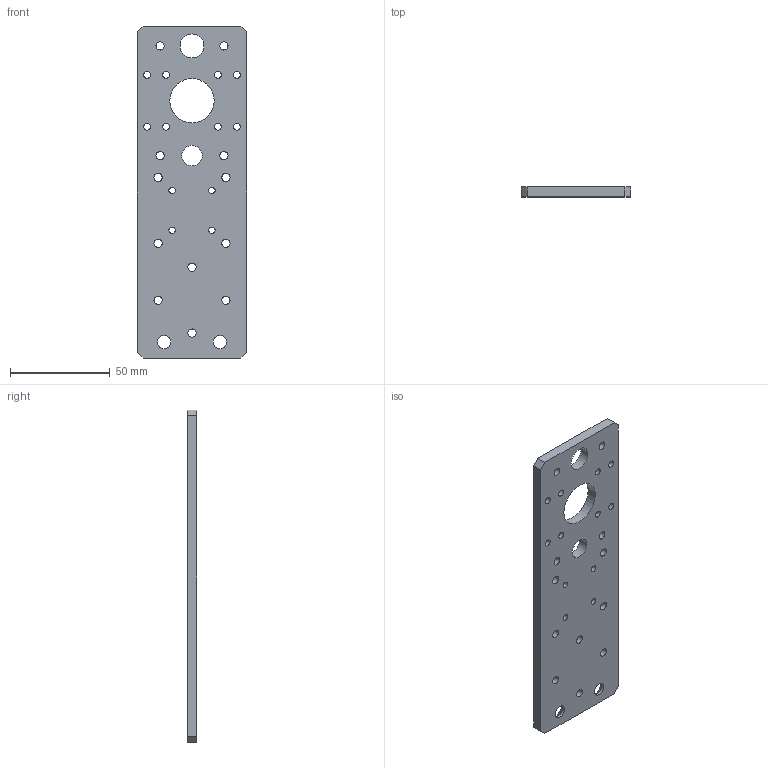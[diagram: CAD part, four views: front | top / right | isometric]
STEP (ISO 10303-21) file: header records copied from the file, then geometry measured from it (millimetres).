
FILE_DESCRIPTION(/* description */ ('x_side_plate'),/* implementation_level */ '2;1');
FILE_NAME(/* name */ '07_x_side_plate_x4.step',/* time_stamp */ '2026-10-27T16:17:51+01:00',/* author */ (''),/* organization */ (''),/* preprocessor_version */ 'ST-DEVELOPER v20.2',/* originating_system */ 'Autodesk Translation Framework v15.17.0.0',/* authorisation */ '');
FILE_SCHEMA (('AUTOMOTIVE_DESIGN { 1 0 10303 214 3 1 1 }'));
Length unit declared in the file: millimetre
Products named in the file (1): 2026-10-27-16-17-51-787
Bounding box: 55 x 5 x 166.5 mm (x, y, z)
Volume: 40662.7 mm3; surface area: 20859.5 mm2
Topology: 1 solids, 1 shells, 45 faces, 129 edges, 86 vertices
Faces by surface type: cylinder 29, plane 10, cone 6
Full cylindrical faces by diameter (mm): 3.2 x4, 3.4 x8, 4.134 x12, 6.6 x2, 10.2 x1, 12 x1, 22.2 x1
Entity records: 1721 total; most frequent: DIRECTION 291, CARTESIAN_POINT 261, ORIENTED_EDGE 258, EDGE_CURVE 129, AXIS2_PLACEMENT_3D 116, EDGE_LOOP 103, VERTEX_POINT 86, CIRCLE 70
